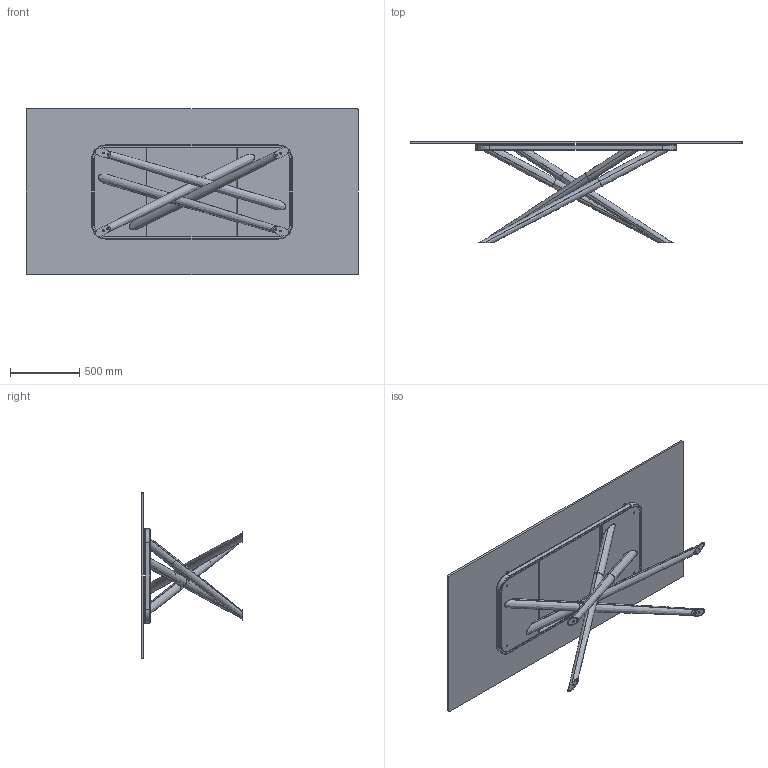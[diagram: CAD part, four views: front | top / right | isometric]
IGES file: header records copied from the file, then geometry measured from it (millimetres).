
Start section: SolidWorks IGES file using analytic representation for surfaces
Global section: file name: Y:\eforma\TECNICO\SOLIDWORKS\E-FORMA\1-TAVOLI\BALY\02 parts\BA23G.IGS; native system: SolidWorks 2022; preprocessor: SolidWorks 2022; author: eforma.tech; date: 240808.080625; units: millimetre
Bounding box: 2400 x 734 x 1200 mm (x, y, z)
Volume: 49048621.2 mm3; surface area: 10113872.8 mm2
Topology: 39 solids, 39 shells, 684 faces, 1380 edges, 768 vertices
Faces by surface type: revolution 352, plane 314, bspline 18
